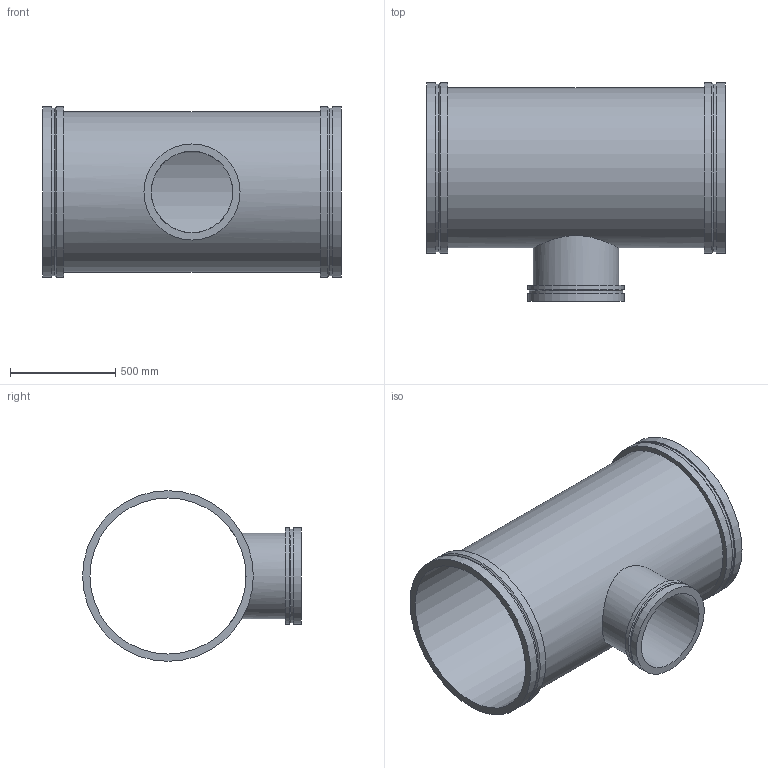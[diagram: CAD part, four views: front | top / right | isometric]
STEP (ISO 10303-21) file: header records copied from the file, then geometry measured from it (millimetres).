
FILE_DESCRIPTION(/* description */ ('VIC REDUCING TEE No W025 VR','CAx-IF Rec.Pracs.---Representation and Presentation of Product Manufacturing Information (PMI)---4.0---2014-10-13'),/* implementation_level */ '2;1');
FILE_NAME(/* name */ 'C:\Users\kkamble\AppData\Roaming\Autodesk\ApplicationPlugins\Back Up\Victaulic_Vic-Ring_Tee Reducing_No W25 VR (AGR)\Victaulic_Vic-Ring_Tee Reducing_No W25 VR (AGR)_30.0x16.0 (750x400).stp',/* time_stamp */ '2020-09-10T11:54:09+05:00',/* author */ ('mchristi'),/* organization */ ('Victaulic'),/* preprocessor_version */ 'ST-DEVELOPER v17.2',/* originating_system */ 'Autodesk Inventor 2019',/* authorisation */ '');
FILE_SCHEMA (('AP242_MANAGED_MODEL_BASED_3D_ENGINEERING_MIM_LF { 1 0 10303 442 1 1 4 }'));
Length unit declared in the file: inch
Products named in the file (1): W25 VR-30.0x16.0
Bounding box: 1422.4 x 1041.4 x 812.8 mm (x, y, z)
Volume: 48869663.1 mm3; surface area: 7668543.6 mm2
Topology: 1 solids, 1 shells, 25 faces, 68 edges, 52 vertices
Faces by surface type: cylinder 13, plane 9, cone 3
Full cylindrical faces by diameter (mm): 387.35 x1, 406.4 x1, 444.5 x1, 457.2 x2, 742.95 x1, 762 x1, 798.322 x2, 812.8 x4
Entity records: 1203 total; most frequent: CARTESIAN_POINT 359, DIRECTION 190, ORIENTED_EDGE 136, AXIS2_PLACEMENT_3D 87, EDGE_CURVE 68, VERTEX_POINT 52, CIRCLE 48, EDGE_LOOP 36
